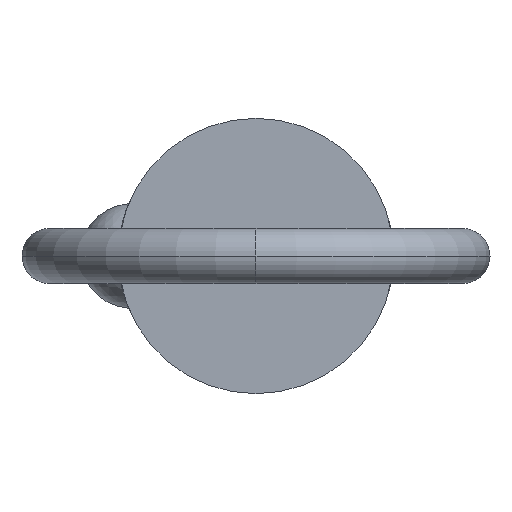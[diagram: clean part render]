
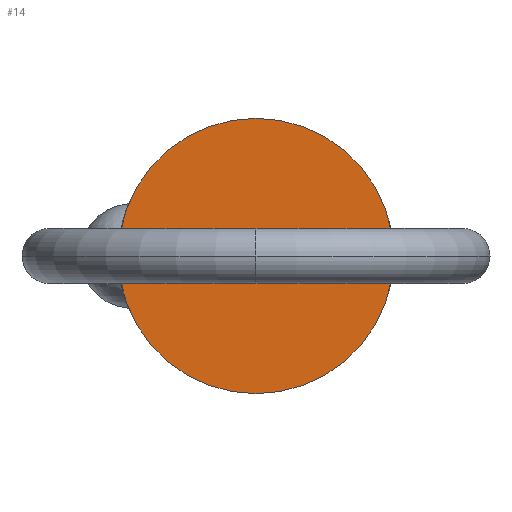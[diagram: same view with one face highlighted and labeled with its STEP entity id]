
A CAD part, left-side view. The second image highlights one B-rep face of the part: STEP entity #14.
In plain terms, the highlighted planar face has unit normal (-1, 0, 0).
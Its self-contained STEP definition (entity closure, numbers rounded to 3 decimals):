
#14 = ADVANCED_FACE ( 'NONE', ( #613 ), #219, .T. ) ;
#40 = DIRECTION ( 'NONE',  ( 0., 0., -1. ) ) ;
#42 = DIRECTION ( 'NONE',  ( 1., 0., 0. ) ) ;
#165 = EDGE_LOOP ( 'NONE', ( #743, #382 ) ) ;
#209 = CARTESIAN_POINT ( 'NONE',  ( 0., 0., 0. ) ) ;
#219 = PLANE ( 'NONE',  #744 ) ;
#231 = AXIS2_PLACEMENT_3D ( 'NONE', #809, #596, #435 ) ;
#382 = ORIENTED_EDGE ( 'NONE', *, *, #568, .F. ) ;
#409 = VERTEX_POINT ( 'NONE', #432 ) ;
#432 = CARTESIAN_POINT ( 'NONE',  ( 0., 0., -12.7 ) ) ;
#435 = DIRECTION ( 'NONE',  ( 0., 0., -1. ) ) ;
#443 = CIRCLE ( 'NONE', #870, 12.7 ) ;
#463 = EDGE_CURVE ( 'NONE', #409, #562, #443, .T. ) ;
#562 = VERTEX_POINT ( 'NONE', #759 ) ;
#568 = EDGE_CURVE ( 'NONE', #562, #409, #697, .T. ) ;
#596 = DIRECTION ( 'NONE',  ( 1., 0., 0. ) ) ;
#613 = FACE_OUTER_BOUND ( 'NONE', #165, .T. ) ;
#688 = DIRECTION ( 'NONE',  ( -1., 0., 0. ) ) ;
#697 = CIRCLE ( 'NONE', #231, 12.7 ) ;
#743 = ORIENTED_EDGE ( 'NONE', *, *, #463, .F. ) ;
#744 = AXIS2_PLACEMENT_3D ( 'NONE', #209, #688, #907 ) ;
#759 = CARTESIAN_POINT ( 'NONE',  ( 0., 0., 12.7 ) ) ;
#792 = CARTESIAN_POINT ( 'NONE',  ( 0., 0., 0. ) ) ;
#809 = CARTESIAN_POINT ( 'NONE',  ( 0., 0., 0. ) ) ;
#870 = AXIS2_PLACEMENT_3D ( 'NONE', #792, #42, #40 ) ;
#907 = DIRECTION ( 'NONE',  ( 0., 0., 1. ) ) ;
